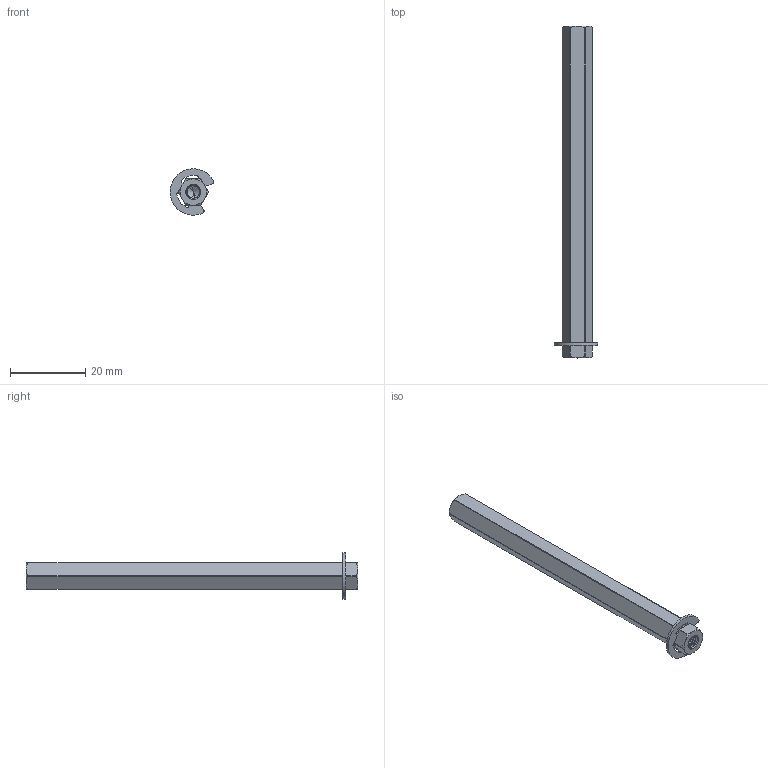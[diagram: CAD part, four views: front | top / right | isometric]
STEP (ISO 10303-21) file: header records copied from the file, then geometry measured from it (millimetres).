
FILE_DESCRIPTION (( 'STEP AP203' ), '1' );
FILE_NAME ('2106-4008-0880 assembly.STEP', '2021-05-10T21:55:39', ( '' ), ( '' ), 'SwSTEP 2.0', 'SolidWorks 2016', '' );
FILE_SCHEMA (( 'CONFIG_CONTROL_DESIGN' ));
Length unit declared in the file: millimetre
Products named in the file (3): 2106-4008-0880 assembly; 2106 Series 8mm REX e-clip; 2106-4008-0880
Assembly tree (2 placements, depth 2):
  2106-4008-0880 assembly
    2106-4008-0880
    2106 Series 8mm REX e-clip
Bounding box: 11.56 x 88 x 12.28 mm (x, y, z)
Volume: 3475.4 mm3; surface area: 2847.6 mm2
Topology: 2 solids, 2 shells, 220 faces, 624 edges, 408 vertices
Faces by surface type: cylinder 168, plane 26, cone 22, bspline 4
Entity records: 13217 total; most frequent: CARTESIAN_POINT 8047, ORIENTED_EDGE 1240, DIRECTION 846, EDGE_CURVE 620, VERTEX_POINT 408, AXIS2_PLACEMENT_3D 315, EDGE_LOOP 224, FACE_OUTER_BOUND 220
